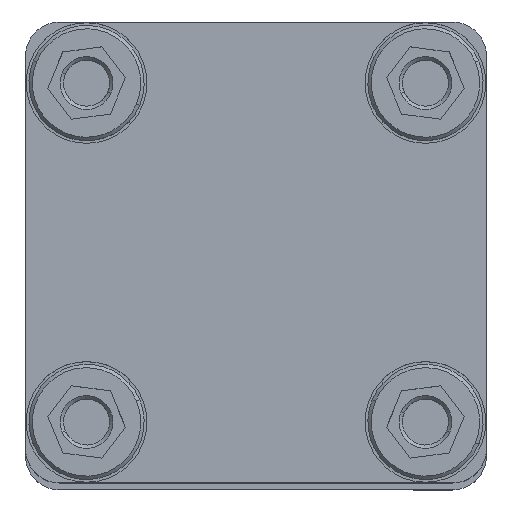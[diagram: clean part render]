
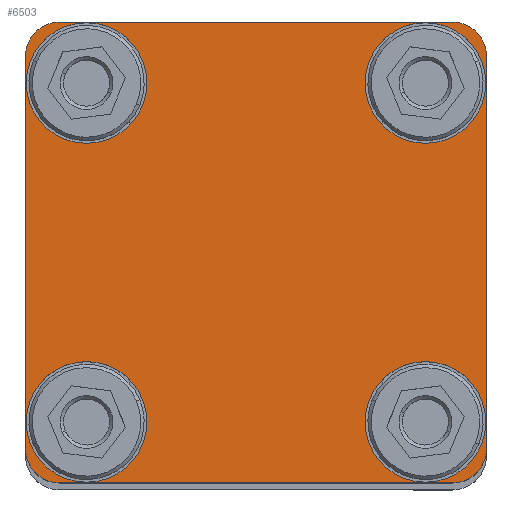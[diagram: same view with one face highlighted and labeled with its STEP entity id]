
A CAD part, top view. The second image highlights one B-rep face of the part: STEP entity #6503.
In plain terms, the highlighted planar face has unit normal (0, 0, 1) as drawn and (1, 0, 0) by its records, which use the part's own axes.
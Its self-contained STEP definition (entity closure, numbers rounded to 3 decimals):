
#78 = DIRECTION ( 'NONE',  ( 0., 0., 1. ) ) ;
#259 = CARTESIAN_POINT ( 'NONE',  ( 0., -25., -33.9 ) ) ;
#302 = EDGE_CURVE ( 'NONE', #2061, #5897, #6110, .T. ) ;
#477 = CARTESIAN_POINT ( 'NONE',  ( 0., 29., -34. ) ) ;
#783 = EDGE_LOOP ( 'NONE', ( #11933, #3612 ) ) ;
#890 = DIRECTION ( 'NONE',  ( 1., 0., 0. ) ) ;
#910 = VERTEX_POINT ( 'NONE', #7223 ) ;
#926 = CARTESIAN_POINT ( 'NONE',  ( 0., -25., -25. ) ) ;
#1062 = CIRCLE ( 'NONE', #13189, 8.9 ) ;
#1063 = ORIENTED_EDGE ( 'NONE', *, *, #6884, .T. ) ;
#1068 = DIRECTION ( 'NONE',  ( 1., 0., 0. ) ) ;
#1104 = CARTESIAN_POINT ( 'NONE',  ( 0., -25., 25. ) ) ;
#1203 = FACE_BOUND ( 'NONE', #783, .T. ) ;
#1234 = CARTESIAN_POINT ( 'NONE',  ( 0., -34., -34. ) ) ;
#1241 = CARTESIAN_POINT ( 'NONE',  ( 0., 25., -25. ) ) ;
#1492 = CARTESIAN_POINT ( 'NONE',  ( 0., 34., -34. ) ) ;
#1612 = VERTEX_POINT ( 'NONE', #12577 ) ;
#1736 = AXIS2_PLACEMENT_3D ( 'NONE', #1104, #890, #7755 ) ;
#1944 = DIRECTION ( 'NONE',  ( 0., 0., -1. ) ) ;
#2005 = AXIS2_PLACEMENT_3D ( 'NONE', #2115, #3327, #2265 ) ;
#2061 = VERTEX_POINT ( 'NONE', #4840 ) ;
#2108 = DIRECTION ( 'NONE',  ( 0., 0., -1. ) ) ;
#2115 = CARTESIAN_POINT ( 'NONE',  ( 0., 25., 25. ) ) ;
#2146 = CARTESIAN_POINT ( 'NONE',  ( 0., -29., 34. ) ) ;
#2265 = DIRECTION ( 'NONE',  ( 0., 0., -1. ) ) ;
#2293 = DIRECTION ( 'NONE',  ( 1., 0., 0. ) ) ;
#2306 = VERTEX_POINT ( 'NONE', #5027 ) ;
#2361 = ORIENTED_EDGE ( 'NONE', *, *, #7736, .F. ) ;
#2410 = FACE_BOUND ( 'NONE', #13560, .T. ) ;
#2573 = CIRCLE ( 'NONE', #7693, 5. ) ;
#2593 = FACE_OUTER_BOUND ( 'NONE', #11083, .T. ) ;
#2703 = DIRECTION ( 'NONE',  ( 1., 0., 0. ) ) ;
#2940 = EDGE_CURVE ( 'NONE', #1612, #5684, #3752, .T. ) ;
#3112 = ORIENTED_EDGE ( 'NONE', *, *, #6068, .T. ) ;
#3182 = VERTEX_POINT ( 'NONE', #3840 ) ;
#3298 = AXIS2_PLACEMENT_3D ( 'NONE', #11433, #6917, #12436 ) ;
#3327 = DIRECTION ( 'NONE',  ( 1., 0., 0. ) ) ;
#3408 = CARTESIAN_POINT ( 'NONE',  ( 0., -29., 29. ) ) ;
#3426 = CARTESIAN_POINT ( 'NONE',  ( 0., -25., 25. ) ) ;
#3500 = EDGE_CURVE ( 'NONE', #5045, #6265, #8255, .T. ) ;
#3612 = ORIENTED_EDGE ( 'NONE', *, *, #5373, .F. ) ;
#3650 = CIRCLE ( 'NONE', #9299, 8.9 ) ;
#3752 = CIRCLE ( 'NONE', #12106, 8.9 ) ;
#3810 = CIRCLE ( 'NONE', #3298, 5. ) ;
#3838 = VECTOR ( 'NONE', #78, 1000. ) ;
#3840 = CARTESIAN_POINT ( 'NONE',  ( 0., 25., -16.1 ) ) ;
#3958 = AXIS2_PLACEMENT_3D ( 'NONE', #9300, #10602, #9394 ) ;
#4023 = LINE ( 'NONE', #12612, #8734 ) ;
#4507 = CARTESIAN_POINT ( 'NONE',  ( 0., -25., 16.1 ) ) ;
#4551 = ORIENTED_EDGE ( 'NONE', *, *, #9227, .F. ) ;
#4622 = DIRECTION ( 'NONE',  ( 1., 0., 0. ) ) ;
#4735 = VERTEX_POINT ( 'NONE', #2146 ) ;
#4801 = DIRECTION ( 'NONE',  ( 0., -1., 0. ) ) ;
#4840 = CARTESIAN_POINT ( 'NONE',  ( 0., -34., -29. ) ) ;
#4882 = AXIS2_PLACEMENT_3D ( 'NONE', #5288, #1068, #7522 ) ;
#5023 = ORIENTED_EDGE ( 'NONE', *, *, #8361, .T. ) ;
#5027 = CARTESIAN_POINT ( 'NONE',  ( 0., 29., 34. ) ) ;
#5045 = VERTEX_POINT ( 'NONE', #259 ) ;
#5288 = CARTESIAN_POINT ( 'NONE',  ( 0., 0., 0. ) ) ;
#5361 = FACE_BOUND ( 'NONE', #6976, .T. ) ;
#5373 = EDGE_CURVE ( 'NONE', #6265, #5045, #13224, .T. ) ;
#5684 = VERTEX_POINT ( 'NONE', #8102 ) ;
#5772 = CIRCLE ( 'NONE', #3958, 5. ) ;
#5897 = VERTEX_POINT ( 'NONE', #6391 ) ;
#5922 = DIRECTION ( 'NONE',  ( 0., 1., 0. ) ) ;
#6068 = EDGE_CURVE ( 'NONE', #2061, #10477, #3810, .T. ) ;
#6069 = CARTESIAN_POINT ( 'NONE',  ( 0., 34., -29. ) ) ;
#6110 = LINE ( 'NONE', #1234, #3838 ) ;
#6265 = VERTEX_POINT ( 'NONE', #9267 ) ;
#6302 = VECTOR ( 'NONE', #5922, 1000. ) ;
#6391 = CARTESIAN_POINT ( 'NONE',  ( 0., -34., 29. ) ) ;
#6503 = ADVANCED_FACE ( 'NONE', ( #2410, #5361, #1203, #10915, #2593 ), #6612, .T. ) ;
#6612 = PLANE ( 'NONE',  #4882 ) ;
#6765 = VERTEX_POINT ( 'NONE', #12555 ) ;
#6884 = EDGE_CURVE ( 'NONE', #9912, #9142, #2573, .T. ) ;
#6917 = DIRECTION ( 'NONE',  ( 1., 0., 0. ) ) ;
#6976 = EDGE_LOOP ( 'NONE', ( #7315, #2361 ) ) ;
#7223 = CARTESIAN_POINT ( 'NONE',  ( 0., 34., 29. ) ) ;
#7315 = ORIENTED_EDGE ( 'NONE', *, *, #11321, .F. ) ;
#7522 = DIRECTION ( 'NONE',  ( 0., 0., -1. ) ) ;
#7523 = ORIENTED_EDGE ( 'NONE', *, *, #14068, .F. ) ;
#7573 = CIRCLE ( 'NONE', #1736, 8.9 ) ;
#7579 = AXIS2_PLACEMENT_3D ( 'NONE', #10960, #13163, #7668 ) ;
#7598 = CARTESIAN_POINT ( 'NONE',  ( 0., 25., 25. ) ) ;
#7668 = DIRECTION ( 'NONE',  ( 0., 0., -1. ) ) ;
#7690 = DIRECTION ( 'NONE',  ( 1., 0., 0. ) ) ;
#7693 = AXIS2_PLACEMENT_3D ( 'NONE', #8242, #2703, #8377 ) ;
#7736 = EDGE_CURVE ( 'NONE', #6765, #8907, #7573, .T. ) ;
#7755 = DIRECTION ( 'NONE',  ( 0., 0., -1. ) ) ;
#7786 = DIRECTION ( 'NONE',  ( 0., 0., -1. ) ) ;
#7801 = EDGE_CURVE ( 'NONE', #5684, #1612, #11563, .T. ) ;
#7956 = CARTESIAN_POINT ( 'NONE',  ( 0., -34., 34. ) ) ;
#8079 = EDGE_CURVE ( 'NONE', #910, #9142, #11403, .T. ) ;
#8102 = CARTESIAN_POINT ( 'NONE',  ( 0., 25., 33.9 ) ) ;
#8242 = CARTESIAN_POINT ( 'NONE',  ( 0., 29., -29. ) ) ;
#8255 = CIRCLE ( 'NONE', #9869, 8.9 ) ;
#8361 = EDGE_CURVE ( 'NONE', #4735, #5897, #11722, .T. ) ;
#8377 = DIRECTION ( 'NONE',  ( 0., 0., -1. ) ) ;
#8734 = VECTOR ( 'NONE', #4801, 1000. ) ;
#8789 = DIRECTION ( 'NONE',  ( 0., 0., -1. ) ) ;
#8846 = EDGE_LOOP ( 'NONE', ( #7523, #12755 ) ) ;
#8907 = VERTEX_POINT ( 'NONE', #4507 ) ;
#9037 = DIRECTION ( 'NONE',  ( 0., 0., -1. ) ) ;
#9112 = VERTEX_POINT ( 'NONE', #10478 ) ;
#9142 = VERTEX_POINT ( 'NONE', #6069 ) ;
#9227 = EDGE_CURVE ( 'NONE', #9912, #10477, #4023, .T. ) ;
#9267 = CARTESIAN_POINT ( 'NONE',  ( 0., -25., -16.1 ) ) ;
#9299 = AXIS2_PLACEMENT_3D ( 'NONE', #3426, #4622, #10203 ) ;
#9300 = CARTESIAN_POINT ( 'NONE',  ( 0., 29., 29. ) ) ;
#9394 = DIRECTION ( 'NONE',  ( 0., 0., -1. ) ) ;
#9652 = EDGE_CURVE ( 'NONE', #4735, #2306, #13925, .T. ) ;
#9846 = EDGE_CURVE ( 'NONE', #910, #2306, #5772, .T. ) ;
#9869 = AXIS2_PLACEMENT_3D ( 'NONE', #926, #12087, #1944 ) ;
#9912 = VERTEX_POINT ( 'NONE', #477 ) ;
#9985 = VECTOR ( 'NONE', #10588, 1000. ) ;
#10203 = DIRECTION ( 'NONE',  ( 0., 0., -1. ) ) ;
#10477 = VERTEX_POINT ( 'NONE', #11944 ) ;
#10478 = CARTESIAN_POINT ( 'NONE',  ( 0., 25., -33.9 ) ) ;
#10588 = DIRECTION ( 'NONE',  ( 0., 0., -1. ) ) ;
#10602 = DIRECTION ( 'NONE',  ( 1., 0., 0. ) ) ;
#10639 = ORIENTED_EDGE ( 'NONE', *, *, #8079, .F. ) ;
#10736 = EDGE_CURVE ( 'NONE', #3182, #9112, #1062, .T. ) ;
#10915 = FACE_BOUND ( 'NONE', #8846, .T. ) ;
#10960 = CARTESIAN_POINT ( 'NONE',  ( 0., -25., -25. ) ) ;
#11083 = EDGE_LOOP ( 'NONE', ( #12994, #5023, #13836, #3112, #4551, #1063, #10639, #13910 ) ) ;
#11090 = DIRECTION ( 'NONE',  ( 1., 0., 0. ) ) ;
#11321 = EDGE_CURVE ( 'NONE', #8907, #6765, #3650, .T. ) ;
#11403 = LINE ( 'NONE', #1492, #9985 ) ;
#11433 = CARTESIAN_POINT ( 'NONE',  ( 0., -29., -29. ) ) ;
#11560 = ORIENTED_EDGE ( 'NONE', *, *, #7801, .F. ) ;
#11563 = CIRCLE ( 'NONE', #2005, 8.9 ) ;
#11722 = CIRCLE ( 'NONE', #14281, 5. ) ;
#11933 = ORIENTED_EDGE ( 'NONE', *, *, #3500, .F. ) ;
#11944 = CARTESIAN_POINT ( 'NONE',  ( 0., -29., -34. ) ) ;
#12006 = ORIENTED_EDGE ( 'NONE', *, *, #2940, .F. ) ;
#12087 = DIRECTION ( 'NONE',  ( 1., 0., 0. ) ) ;
#12106 = AXIS2_PLACEMENT_3D ( 'NONE', #7598, #11090, #2108 ) ;
#12335 = DIRECTION ( 'NONE',  ( 1., 0., 0. ) ) ;
#12429 = CIRCLE ( 'NONE', #12794, 8.9 ) ;
#12436 = DIRECTION ( 'NONE',  ( 0., 0., -1. ) ) ;
#12555 = CARTESIAN_POINT ( 'NONE',  ( 0., -25., 33.9 ) ) ;
#12577 = CARTESIAN_POINT ( 'NONE',  ( 0., 25., 16.1 ) ) ;
#12612 = CARTESIAN_POINT ( 'NONE',  ( 0., -34., -34. ) ) ;
#12755 = ORIENTED_EDGE ( 'NONE', *, *, #10736, .F. ) ;
#12794 = AXIS2_PLACEMENT_3D ( 'NONE', #1241, #12335, #9037 ) ;
#12994 = ORIENTED_EDGE ( 'NONE', *, *, #9652, .F. ) ;
#13163 = DIRECTION ( 'NONE',  ( 1., 0., 0. ) ) ;
#13189 = AXIS2_PLACEMENT_3D ( 'NONE', #14320, #7690, #8789 ) ;
#13224 = CIRCLE ( 'NONE', #7579, 8.9 ) ;
#13560 = EDGE_LOOP ( 'NONE', ( #12006, #11560 ) ) ;
#13836 = ORIENTED_EDGE ( 'NONE', *, *, #302, .F. ) ;
#13910 = ORIENTED_EDGE ( 'NONE', *, *, #9846, .T. ) ;
#13925 = LINE ( 'NONE', #7956, #6302 ) ;
#14068 = EDGE_CURVE ( 'NONE', #9112, #3182, #12429, .T. ) ;
#14281 = AXIS2_PLACEMENT_3D ( 'NONE', #3408, #2293, #7786 ) ;
#14320 = CARTESIAN_POINT ( 'NONE',  ( 0., 25., -25. ) ) ;
